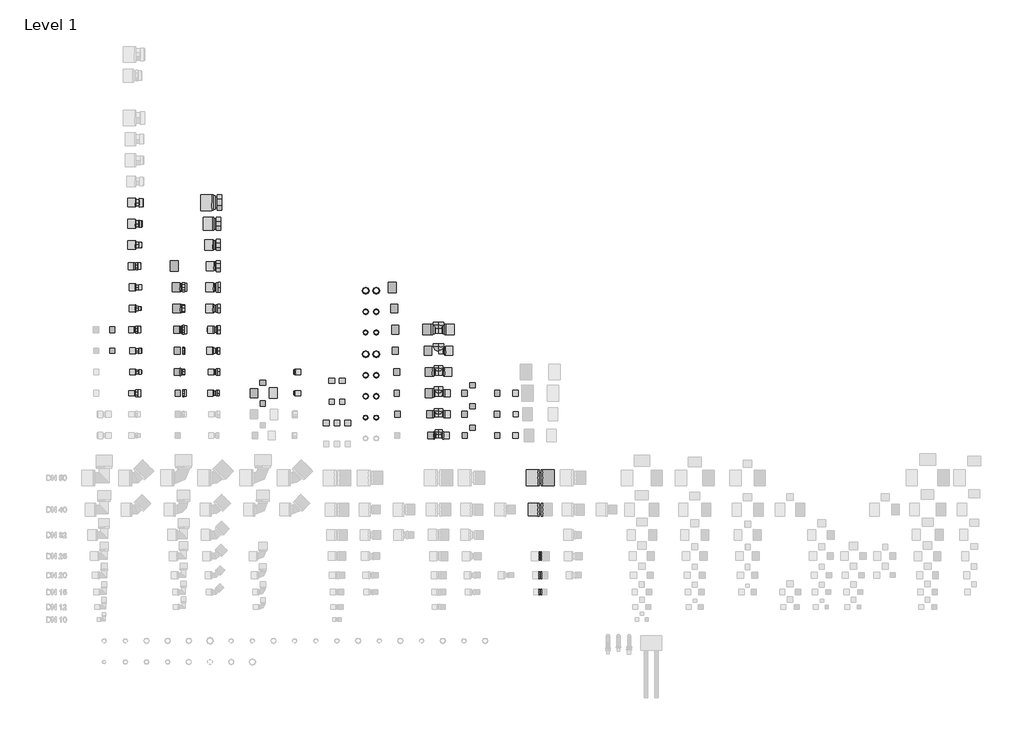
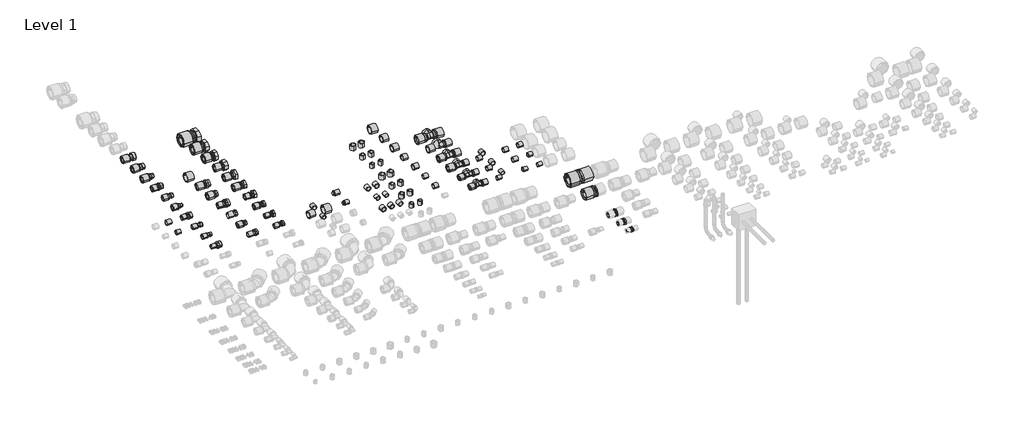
# One storey, part 3 of 6: 129 pipe fittings.
"""IFC4 building model written with IfcOpenShell, lengths in millimetres."""

from ifc_helpers import new_model, si_unit, origin, place, context, project, spatial, transform, mapped, element, save
from components import pipe_fitting_dc5bd9e1, pipe_fitting_2d968c61, pipe_fitting_88740129, pipe_fitting_559d0b61, pipe_fitting_0c431896, pipe_fitting_02b715f6, pipe_fitting_7a5bf8d1, pipe_fitting_13d5c0a8, pipe_fitting_8540cbe0, pipe_fitting_d5a7e158, pipe_fitting_53153cce, pipe_fitting_3f19c21a, pipe_fitting_12e4655d, pipe_fitting_7b1f8a8a, pipe_fitting_287578f1, pipe_fitting_785edea0, pipe_fitting_6b43a2d7, pipe_fitting_e8103e93, pipe_fitting_925a95b2, pipe_fitting_cb618aad, pipe_fitting_878e7421, pipe_fitting_f3fac54c, pipe_fitting_2987e508, pipe_fitting_4d9bfbce, pipe_fitting_af6f0c80, pipe_fitting_d0a43c41, pipe_fitting_14bc0ab8, pipe_fitting_6d607381, pipe_fitting_c2736b13, pipe_fitting_865653ef, pipe_fitting_e0fdfad7, pipe_fitting_e5cdf9b6, pipe_fitting_7c62dc51, pipe_fitting_33c6310a, pipe_fitting_bc3ce7b6, pipe_fitting_96b89afd, pipe_fitting_d2a3cc81, pipe_fitting_7746bbda, pipe_fitting_c34647a8, pipe_fitting_44745cd8, pipe_fitting_1432e17d, pipe_fitting_54674e64, pipe_fitting_b68d655f, pipe_fitting_80a5c932, pipe_fitting_2d11deeb, pipe_fitting_3f0aedb5, pipe_fitting_70f18579, pipe_fitting_447a7474

model = new_model("IFC4")

# Units and contexts
model_context = context("Model", 3, world=origin())
ifc_project = project(units=[si_unit("LENGTHUNIT", "METRE", prefix="MILLI")], contexts=[model_context])

# Site, building, storey
site = spatial("IfcSite", under=ifc_project)
building = spatial("IfcBuilding", under=site)
storey = spatial("IfcBuildingStorey", under=building, Name="Level 1", Elevation=0.0)

# Pipe fittings
placement = place(None, origin())
pipe_fitting_shape = pipe_fitting_dc5bd9e1(model_context)
element("IfcPipeFitting", 1, ObjectType="RAUTITAN_Union_RX+ : RTI RX+ U DE", at=placement, inside=storey, context=model_context, shape_type="MappedRepresentation", body=[
    mapped(pipe_fitting_shape, transform((2060.0, 300.0, 0.0), x_axis=(1.0, 0.0, 0.0), y_axis=(0.0, 1.0, 0.0), z_axis=(0.0, 0.0, 1.0))),
])
pipe_fitting_2_shape = pipe_fitting_2d968c61(model_context)
element("IfcPipeFitting", 2, ObjectType="RAUTITAN_Union_RX+ : RTI RX+ U DE", at=placement, inside=storey, context=model_context, shape_type="MappedRepresentation", body=[
    mapped(pipe_fitting_2_shape, transform((2060.0, 130.0, 0.0), x_axis=(1.0, 0.0, 0.0), y_axis=(0.0, 1.0, 0.0), z_axis=(0.0, 0.0, 1.0))),
])
pipe_fitting_3_shape = pipe_fitting_88740129(model_context)
element("IfcPipeFitting", 3, ObjectType="RAUTITAN_Union_RX+ : RTI RX+ U DE", at=placement, inside=storey, context=model_context, shape_type="MappedRepresentation", body=[
    mapped(pipe_fitting_3_shape, transform((2060.0, 210.0, 0.0), x_axis=(1.0, 0.0, 0.0), y_axis=(0.0, 1.0, 0.0), z_axis=(0.0, 0.0, 1.0))),
])
pipe_fitting_4_shape = pipe_fitting_559d0b61(model_context)
element("IfcPipeFitting", 4, ObjectType="RAUTITAN_Union_RX+ : RTI RX+ U DE", at=placement, inside=storey, context=model_context, shape_type="MappedRepresentation", body=[
    mapped(pipe_fitting_4_shape, transform((2060.0, 520.0, 0.0), x_axis=(1.0, 0.0, 0.0), y_axis=(0.0, 1.0, 0.0), z_axis=(0.0, 0.0, 1.0))),
])
pipe_fitting_5_shape = pipe_fitting_0c431896(model_context)
element("IfcPipeFitting", 5, ObjectType="RAUTITAN_Union_RX+ : RTI RX+ U DE", at=placement, inside=storey, context=model_context, shape_type="MappedRepresentation", body=[
    mapped(pipe_fitting_5_shape, transform((2060.0, 670.0, 0.0), x_axis=(1.0, 0.0, 0.0), y_axis=(0.0, 1.0, 0.0), z_axis=(0.0, 0.0, 1.0))),
])
pipe_fitting_6_shape = pipe_fitting_02b715f6(model_context)
element("IfcPipeFitting", 6, ObjectType="RAUTITAN_Sleeve PX : RTI S PX", at=placement, inside=storey, context=model_context, shape_type="MappedRepresentation", body=[
    mapped(pipe_fitting_6_shape, transform((2049.0, 520.0, 0.0), x_axis=(-1.0, 0.0, 0.0), y_axis=(0.0, -1.0, 0.0), z_axis=(0.0, 0.0, 1.0))),
])
pipe_fitting_7_shape = pipe_fitting_7a5bf8d1(model_context)
element("IfcPipeFitting", 7, ObjectType="RAUTITAN_Sleeve PX : RTI S PX", at=placement, inside=storey, context=model_context, shape_type="MappedRepresentation", body=[
    mapped(pipe_fitting_7_shape, transform((2047.5, 670.0, 0.0), x_axis=(-1.0, 0.0, 0.0), y_axis=(0.0, -1.0, 0.0), z_axis=(0.0, 0.0, 1.0))),
])
element("IfcPipeFitting", 8, ObjectType="RAUTITAN_Sleeve PX : RTI S PX", at=placement, inside=storey, context=model_context, shape_type="MappedRepresentation", body=[
    mapped(pipe_fitting_7_shape, transform((2072.5, 670.0, 0.0), x_axis=(1.0, 0.0, 0.0), y_axis=(0.0, 1.0, 0.0), z_axis=(0.0, 0.0, 1.0))),
])
pipe_fitting_8_shape = pipe_fitting_13d5c0a8(model_context)
element("IfcPipeFitting", 9, ObjectType="REHAU_RAUTITAN_Sleeve_PX : REHAU_RAUTITAN_Sleeve_PX", at=placement, inside=storey, context=model_context, shape_type="MappedRepresentation", body=[
    mapped(pipe_fitting_8_shape, transform((117.03, 1070.0, 0.0), x_axis=(1.0, 0.0, 0.0), y_axis=(0.0, 1.0, 0.0), z_axis=(0.0, 0.0, 1.0))),
])
element("IfcPipeFitting", 10, ObjectType="REHAU_RAUTITAN_Sleeve_PX : REHAU_RAUTITAN_Sleeve_PX", at=placement, inside=storey, context=model_context, shape_type="MappedRepresentation", body=[
    mapped(pipe_fitting_8_shape, transform((1075.0, 1042.0, 0.0), x_axis=(0.0, -1.0, 0.0), y_axis=(1.0, 0.0, 0.0), z_axis=(0.0, 0.0, 1.0))),
])
element("IfcPipeFitting", 11, ObjectType="REHAU_RAUTITAN_Sleeve_PX : REHAU_RAUTITAN_Sleeve_PX", at=placement, inside=storey, context=model_context, shape_type="MappedRepresentation", body=[
    mapped(pipe_fitting_8_shape, transform((1125.0, 1042.0, 0.0), x_axis=(0.0, -1.0, 0.0), y_axis=(1.0, 0.0, 0.0), z_axis=(0.0, 0.0, 1.0))),
])
element("IfcPipeFitting", 12, ObjectType="REHAU_RAUTITAN_Sleeve_PX : REHAU_RAUTITAN_Sleeve_PX", at=placement, inside=storey, context=model_context, shape_type="MappedRepresentation", body=[
    mapped(pipe_fitting_8_shape, transform((903.8, 1070.0, 0.0), x_axis=(1.0, 0.0, 0.0), y_axis=(0.0, 1.0, 0.0), z_axis=(0.0, 0.0, 1.0))),
])
element("IfcPipeFitting", 13, ObjectType="REHAU_RAUTITAN_Sleeve_PX : REHAU_RAUTITAN_Sleeve_PX", at=placement, inside=storey, context=model_context, shape_type="MappedRepresentation", body=[
    mapped(pipe_fitting_8_shape, transform((49.3, 1270.0, 0.0), x_axis=(-1.0, 0.0, 0.0), y_axis=(0.0, -1.0, 0.0), z_axis=(0.0, 0.0, 1.0))),
])
element("IfcPipeFitting", 14, ObjectType="REHAU_RAUTITAN_Sleeve_PX : REHAU_RAUTITAN_Sleeve_PX", at=placement, inside=storey, context=model_context, shape_type="MappedRepresentation", body=[
    mapped(pipe_fitting_8_shape, transform((1931.15, 870.0, 0.0), x_axis=(1.0, 0.0, 0.0), y_axis=(0.0, 1.0, 0.0), z_axis=(0.0, 0.0, 1.0))),
])
element("IfcPipeFitting", 15, ObjectType="REHAU_RAUTITAN_Sleeve_PX : REHAU_RAUTITAN_Sleeve_PX", at=placement, inside=storey, context=model_context, shape_type="MappedRepresentation", body=[
    mapped(pipe_fitting_8_shape, transform((1868.85, 870.0, 0.0), x_axis=(-1.0, 0.0, 0.0), y_axis=(0.0, -1.0, 0.0), z_axis=(0.0, 0.0, 1.0))),
])
element("IfcPipeFitting", 16, ObjectType="REHAU_RAUTITAN_Sleeve_PX : REHAU_RAUTITAN_Sleeve_PX", at=placement, inside=storey, context=model_context, shape_type="MappedRepresentation", body=[
    mapped(pipe_fitting_8_shape, transform((750.0, 1009.3, 0.0), x_axis=(0.0, 1.0, 0.0), y_axis=(-1.0, 0.0, 0.0), z_axis=(0.0, 0.0, 1.0))),
])
element("IfcPipeFitting", 17, ObjectType="REHAU_RAUTITAN_Sleeve_PX : REHAU_RAUTITAN_Sleeve_PX", at=placement, inside=storey, context=model_context, shape_type="MappedRepresentation", body=[
    mapped(pipe_fitting_8_shape, transform((1234.995, 1356.73, -43.5), x_axis=(0.0, 0.0, -1.0), y_axis=(0.0, 1.0, 0.0), z_axis=(1.0, 0.0, 0.0))),
])
element("IfcPipeFitting", 18, ObjectType="REHAU_RAUTITAN_Sleeve_PX : REHAU_RAUTITAN_Sleeve_PX", at=placement, inside=storey, context=model_context, shape_type="MappedRepresentation", body=[
    mapped(pipe_fitting_8_shape, transform((1285.12, 1356.73, -43.5), x_axis=(0.0, 0.0, -1.0), y_axis=(0.0, 1.0, 0.0), z_axis=(1.0, 0.0, 0.0))),
])
element("IfcPipeFitting", 19, ObjectType="REHAU_RAUTITAN_Sleeve_PX : REHAU_RAUTITAN_Sleeve_PX", at=placement, inside=storey, context=model_context, shape_type="MappedRepresentation", body=[
    mapped(pipe_fitting_8_shape, transform((1234.995, 954.75, -46.31), x_axis=(0.0, 0.0, -1.0), y_axis=(0.0, 1.0, 0.0), z_axis=(1.0, 0.0, 0.0))),
])
element("IfcPipeFitting", 20, ObjectType="REHAU_RAUTITAN_Sleeve_PX : REHAU_RAUTITAN_Sleeve_PX", at=placement, inside=storey, context=model_context, shape_type="MappedRepresentation", body=[
    mapped(pipe_fitting_8_shape, transform((1285.12, 954.75, -46.81), x_axis=(0.0, 0.0, -1.0), y_axis=(0.0, 1.0, 0.0), z_axis=(1.0, 0.0, 0.0))),
])
element("IfcPipeFitting", 21, ObjectType="REHAU_RAUTITAN_Sleeve_PX : REHAU_RAUTITAN_Sleeve_PX", at=placement, inside=storey, context=model_context, shape_type="MappedRepresentation", body=[
    mapped(pipe_fitting_8_shape, transform((1715.22, 870.0, 0.0), x_axis=(-1.0, 0.0, 0.0), y_axis=(0.0, -1.0, 0.0), z_axis=(0.0, 0.0, 1.0))),
])
element("IfcPipeFitting", 22, ObjectType="REHAU_RAUTITAN_Sleeve_PX : REHAU_RAUTITAN_Sleeve_PX", at=placement, inside=storey, context=model_context, shape_type="MappedRepresentation", body=[
    mapped(pipe_fitting_8_shape, transform((1740.0, 894.5, 0.0), x_axis=(0.0, 1.0, 0.0), y_axis=(-1.0, 0.0, 0.0), z_axis=(0.0, 0.0, 1.0))),
])
element("IfcPipeFitting", 23, ObjectType="REHAU_RAUTITAN_Sleeve_PX : REHAU_RAUTITAN_Sleeve_PX", at=placement, inside=storey, context=model_context, shape_type="MappedRepresentation", body=[
    mapped(pipe_fitting_8_shape, transform((1931.81, 970.0, 0.0), x_axis=(1.0, 0.0, 0.0), y_axis=(0.0, 1.0, 0.0), z_axis=(0.0, 0.0, 1.0))),
])
pipe_fitting_9_shape = pipe_fitting_8540cbe0(model_context)
element("IfcPipeFitting", 24, ObjectType="REHAU_RAUTITAN_Adaptor_RX+, with external thread : REHAU_RAUTITAN_Adaptor_RX+, with external thread", at=placement, inside=storey, context=model_context, shape_type="MappedRepresentation", body=[
    mapped(pipe_fitting_9_shape, transform((150.0, 1170.0, 0.0), x_axis=(1.0, 0.0, 0.0), y_axis=(0.0, 1.0, 0.0), z_axis=(0.0, 0.0, 1.0))),
])
pipe_fitting_10_shape = pipe_fitting_d5a7e158(model_context)
element("IfcPipeFitting", 25, ObjectType="REHAU_RAUTITAN_Adaptor_RX+, with external thread : REHAU_RAUTITAN_Adaptor_RX+, with external thread", at=placement, inside=storey, context=model_context, shape_type="MappedRepresentation", body=[
    mapped(pipe_fitting_10_shape, transform((150.0, 1270.0, 0.0), x_axis=(1.0, 0.0, 0.0), y_axis=(0.0, 1.0, 0.0), z_axis=(0.0, 0.0, 1.0))),
])
pipe_fitting_11_shape = pipe_fitting_53153cce(model_context)
element("IfcPipeFitting", 26, ObjectType="REHAU_RAUTITAN_Adaptor_RX+, with external thread : REHAU_RAUTITAN_Adaptor_RX+, with external thread", at=placement, inside=storey, context=model_context, shape_type="MappedRepresentation", body=[
    mapped(pipe_fitting_11_shape, transform((150.0, 1570.0, 0.0), x_axis=(1.0, 0.0, 0.0), y_axis=(0.0, 1.0, 0.0), z_axis=(0.0, 0.0, 1.0))),
])
pipe_fitting_12_shape = pipe_fitting_3f19c21a(model_context)
element("IfcPipeFitting", 27, ObjectType="REHAU_RAUTITAN_Adaptor_RX+, with external thread : REHAU_RAUTITAN_Adaptor_RX+, with external thread", at=placement, inside=storey, context=model_context, shape_type="MappedRepresentation", body=[
    mapped(pipe_fitting_12_shape, transform((150.0, 1070.0, 0.0), x_axis=(1.0, 0.0, 0.0), y_axis=(0.0, 1.0, 0.0), z_axis=(0.0, 0.0, 1.0))),
])
pipe_fitting_13_shape = pipe_fitting_12e4655d(model_context)
element("IfcPipeFitting", 28, ObjectType="REHAU_RAUTITAN_Adaptor_RX+, with external thread : REHAU_RAUTITAN_Adaptor_RX+, with external thread", at=placement, inside=storey, context=model_context, shape_type="MappedRepresentation", body=[
    mapped(pipe_fitting_13_shape, transform((150.0, 1370.0, 0.0), x_axis=(1.0, 0.0, 0.0), y_axis=(0.0, 1.0, 0.0), z_axis=(0.0, 0.0, 1.0))),
])
pipe_fitting_14_shape = pipe_fitting_7b1f8a8a(model_context)
element("IfcPipeFitting", 29, ObjectType="REHAU_RAUTITAN_Dummy_Plug_RX+ : REHAU_RAUTITAN_Dummy_Plug_RX+", at=placement, inside=storey, context=model_context, shape_type="MappedRepresentation", body=[
    mapped(pipe_fitting_14_shape, transform((900.0, 1170.0, 0.0), x_axis=(1.0, 0.0, 0.0), y_axis=(0.0, 1.0, 0.0), z_axis=(0.0, 0.0, 1.0))),
])
pipe_fitting_15_shape = pipe_fitting_287578f1(model_context)
element("IfcPipeFitting", 30, ObjectType="REHAU_RAUTITAN_T-piece RX+, outlet with internal thread : REHAU_RAUTITAN_T-piece RX+, outlet with internal thread", at=placement, inside=storey, context=model_context, shape_type="MappedRepresentation", body=[
    mapped(pipe_fitting_15_shape, transform((1580.0, 870.0, 0.0), x_axis=(1.0, 0.0, 0.0), y_axis=(0.0, 1.0, 0.0), z_axis=(0.0, 0.0, 1.0))),
])
pipe_fitting_16_shape = pipe_fitting_785edea0(model_context)
element("IfcPipeFitting", 31, ObjectType="REHAU_RAUTITAN_Sleeve_PX : REHAU_RAUTITAN_Sleeve_PX", at=placement, inside=storey, context=model_context, shape_type="MappedRepresentation", body=[
    mapped(pipe_fitting_16_shape, transform((121.67, 1170.0, 0.0), x_axis=(1.0, 0.0, 0.0), y_axis=(0.0, 1.0, 0.0), z_axis=(0.0, 0.0, 1.0))),
])
element("IfcPipeFitting", 32, ObjectType="REHAU_RAUTITAN_Sleeve_PX : REHAU_RAUTITAN_Sleeve_PX", at=placement, inside=storey, context=model_context, shape_type="MappedRepresentation", body=[
    mapped(pipe_fitting_16_shape, transform((121.65, 1270.0, 0.0), x_axis=(1.0, 0.0, 0.0), y_axis=(0.0, 1.0, 0.0), z_axis=(0.0, 0.0, 1.0))),
])
element("IfcPipeFitting", 33, ObjectType="REHAU_RAUTITAN_Sleeve_PX : REHAU_RAUTITAN_Sleeve_PX", at=placement, inside=storey, context=model_context, shape_type="MappedRepresentation", body=[
    mapped(pipe_fitting_16_shape, transform((115.56, 1370.0, 0.0), x_axis=(1.0, 0.0, 0.0), y_axis=(0.0, 1.0, 0.0), z_axis=(0.0, 0.0, 1.0))),
])
element("IfcPipeFitting", 34, ObjectType="REHAU_RAUTITAN_Sleeve_PX : REHAU_RAUTITAN_Sleeve_PX", at=placement, inside=storey, context=model_context, shape_type="MappedRepresentation", body=[
    mapped(pipe_fitting_16_shape, transform((1714.85, 1070.0, 0.0), x_axis=(-1.0, 0.0, 0.0), y_axis=(0.0, -1.0, 0.0), z_axis=(0.0, 0.0, 1.0))),
])
element("IfcPipeFitting", 35, ObjectType="REHAU_RAUTITAN_Sleeve_PX : REHAU_RAUTITAN_Sleeve_PX", at=placement, inside=storey, context=model_context, shape_type="MappedRepresentation", body=[
    mapped(pipe_fitting_16_shape, transform((1740.0, 1095.3, 0.0), x_axis=(0.0, 1.0, 0.0), y_axis=(-1.0, 0.0, 0.0), z_axis=(0.0, 0.0, 1.0))),
])
element("IfcPipeFitting", 36, ObjectType="REHAU_RAUTITAN_Sleeve_PX : REHAU_RAUTITAN_Sleeve_PX", at=placement, inside=storey, context=model_context, shape_type="MappedRepresentation", body=[
    mapped(pipe_fitting_16_shape, transform((50.8, 1370.0, 0.0), x_axis=(-1.0, 0.0, 0.0), y_axis=(0.0, -1.0, 0.0), z_axis=(0.0, 0.0, 1.0))),
])
element("IfcPipeFitting", 37, ObjectType="REHAU_RAUTITAN_Sleeve_PX : REHAU_RAUTITAN_Sleeve_PX", at=placement, inside=storey, context=model_context, shape_type="MappedRepresentation", body=[
    mapped(pipe_fitting_16_shape, transform((359.81, 1070.0, 0.0), x_axis=(-1.0, 0.0, 0.0), y_axis=(0.0, -1.0, 0.0), z_axis=(0.0, 0.0, 1.0))),
])
element("IfcPipeFitting", 38, ObjectType="REHAU_RAUTITAN_Sleeve_PX : REHAU_RAUTITAN_Sleeve_PX", at=placement, inside=storey, context=model_context, shape_type="MappedRepresentation", body=[
    mapped(pipe_fitting_16_shape, transform((488.91, 1070.0, 0.0), x_axis=(1.0, 0.0, 0.0), y_axis=(0.0, 1.0, 0.0), z_axis=(0.0, 0.0, 1.0))),
])
element("IfcPipeFitting", 39, ObjectType="REHAU_RAUTITAN_Sleeve_PX : REHAU_RAUTITAN_Sleeve_PX", at=placement, inside=storey, context=model_context, shape_type="MappedRepresentation", body=[
    mapped(pipe_fitting_16_shape, transform((492.1, 1170.0, 0.0), x_axis=(1.0, 0.0, 0.0), y_axis=(0.0, 1.0, 0.0), z_axis=(0.0, 0.0, 1.0))),
])
element("IfcPipeFitting", 40, ObjectType="REHAU_RAUTITAN_Sleeve_PX : REHAU_RAUTITAN_Sleeve_PX", at=placement, inside=storey, context=model_context, shape_type="MappedRepresentation", body=[
    mapped(pipe_fitting_16_shape, transform((750.0, 1106.8, 0.0), x_axis=(0.0, 1.0, 0.0), y_axis=(-1.0, 0.0, 0.0), z_axis=(0.0, 0.0, 1.0))),
])
element("IfcPipeFitting", 41, ObjectType="REHAU_RAUTITAN_Sleeve_PX : REHAU_RAUTITAN_Sleeve_PX", at=placement, inside=storey, context=model_context, shape_type="MappedRepresentation", body=[
    mapped(pipe_fitting_16_shape, transform((1050.0, 942.0, 0.0), x_axis=(0.0, -1.0, 0.0), y_axis=(1.0, 0.0, 0.0), z_axis=(0.0, 0.0, 1.0))),
])
element("IfcPipeFitting", 42, ObjectType="REHAU_RAUTITAN_Sleeve_PX : REHAU_RAUTITAN_Sleeve_PX", at=placement, inside=storey, context=model_context, shape_type="MappedRepresentation", body=[
    mapped(pipe_fitting_16_shape, transform((1100.0, 942.0, 0.0), x_axis=(0.0, -1.0, 0.0), y_axis=(1.0, 0.0, 0.0), z_axis=(0.0, 0.0, 1.0))),
])
element("IfcPipeFitting", 43, ObjectType="REHAU_RAUTITAN_Sleeve_PX : REHAU_RAUTITAN_Sleeve_PX", at=placement, inside=storey, context=model_context, shape_type="MappedRepresentation", body=[
    mapped(pipe_fitting_16_shape, transform((1150.0, 942.0, 0.0), x_axis=(0.0, -1.0, 0.0), y_axis=(1.0, 0.0, 0.0), z_axis=(0.0, 0.0, 1.0))),
])
element("IfcPipeFitting", 44, ObjectType="REHAU_RAUTITAN_Sleeve_PX : REHAU_RAUTITAN_Sleeve_PX", at=placement, inside=storey, context=model_context, shape_type="MappedRepresentation", body=[
    mapped(pipe_fitting_16_shape, transform((1075.0, 1140.9, 0.0), x_axis=(0.0, -1.0, 0.0), y_axis=(1.0, 0.0, 0.0), z_axis=(0.0, 0.0, 1.0))),
])
element("IfcPipeFitting", 45, ObjectType="REHAU_RAUTITAN_Sleeve_PX : REHAU_RAUTITAN_Sleeve_PX", at=placement, inside=storey, context=model_context, shape_type="MappedRepresentation", body=[
    mapped(pipe_fitting_16_shape, transform((1125.0, 1140.9, 0.0), x_axis=(0.0, -1.0, 0.0), y_axis=(1.0, 0.0, 0.0), z_axis=(0.0, 0.0, 1.0))),
])
element("IfcPipeFitting", 46, ObjectType="REHAU_RAUTITAN_Sleeve_PX : REHAU_RAUTITAN_Sleeve_PX", at=placement, inside=storey, context=model_context, shape_type="MappedRepresentation", body=[
    mapped(pipe_fitting_16_shape, transform((1234.995, 1154.75, -46.81), x_axis=(0.0, 0.0, -1.0), y_axis=(0.0, 1.0, 0.0), z_axis=(1.0, 0.0, 0.0))),
])
element("IfcPipeFitting", 47, ObjectType="REHAU_RAUTITAN_Sleeve_PX : REHAU_RAUTITAN_Sleeve_PX", at=placement, inside=storey, context=model_context, shape_type="MappedRepresentation", body=[
    mapped(pipe_fitting_16_shape, transform((1285.12, 1154.75, -46.81), x_axis=(0.0, 0.0, -1.0), y_axis=(0.0, 1.0, 0.0), z_axis=(1.0, 0.0, 0.0))),
])
element("IfcPipeFitting", 48, ObjectType="REHAU_RAUTITAN_Sleeve_PX : REHAU_RAUTITAN_Sleeve_PX", at=placement, inside=storey, context=model_context, shape_type="MappedRepresentation", body=[
    mapped(pipe_fitting_16_shape, transform((1234.995, 1454.75, -46.81), x_axis=(0.0, 0.0, -1.0), y_axis=(0.0, 1.0, 0.0), z_axis=(1.0, 0.0, 0.0))),
])
element("IfcPipeFitting", 49, ObjectType="REHAU_RAUTITAN_Sleeve_PX : REHAU_RAUTITAN_Sleeve_PX", at=placement, inside=storey, context=model_context, shape_type="MappedRepresentation", body=[
    mapped(pipe_fitting_16_shape, transform((1285.12, 1454.75, -46.81), x_axis=(0.0, 0.0, -1.0), y_axis=(0.0, 1.0, 0.0), z_axis=(1.0, 0.0, 0.0))),
])
element("IfcPipeFitting", 50, ObjectType="REHAU_RAUTITAN_Sleeve_PX : REHAU_RAUTITAN_Sleeve_PX", at=placement, inside=storey, context=model_context, shape_type="MappedRepresentation", body=[
    mapped(pipe_fitting_16_shape, transform((1234.995, 1054.75, -46.81), x_axis=(0.0, 0.0, -1.0), y_axis=(0.0, 1.0, 0.0), z_axis=(1.0, 0.0, 0.0))),
])
element("IfcPipeFitting", 51, ObjectType="REHAU_RAUTITAN_Sleeve_PX : REHAU_RAUTITAN_Sleeve_PX", at=placement, inside=storey, context=model_context, shape_type="MappedRepresentation", body=[
    mapped(pipe_fitting_16_shape, transform((1285.12, 1054.75, -46.31), x_axis=(0.0, 0.0, -1.0), y_axis=(0.0, 1.0, 0.0), z_axis=(1.0, 0.0, 0.0))),
])
element("IfcPipeFitting", 52, ObjectType="REHAU_RAUTITAN_Sleeve_PX : REHAU_RAUTITAN_Sleeve_PX", at=placement, inside=storey, context=model_context, shape_type="MappedRepresentation", body=[
    mapped(pipe_fitting_16_shape, transform((904.3, 1170.0, 0.0), x_axis=(1.0, 0.0, 0.0), y_axis=(0.0, 1.0, 0.0), z_axis=(0.0, 0.0, 1.0))),
])
element("IfcPipeFitting", 53, ObjectType="REHAU_RAUTITAN_Sleeve_PX : REHAU_RAUTITAN_Sleeve_PX", at=placement, inside=storey, context=model_context, shape_type="MappedRepresentation", body=[
    mapped(pipe_fitting_16_shape, transform((1397.5, 970.0, 0.0), x_axis=(-1.0, 0.0, 0.0), y_axis=(0.0, -1.0, 0.0), z_axis=(0.0, 0.0, 1.0))),
])
element("IfcPipeFitting", 54, ObjectType="REHAU_RAUTITAN_Sleeve_PX : REHAU_RAUTITAN_Sleeve_PX", at=placement, inside=storey, context=model_context, shape_type="MappedRepresentation", body=[
    mapped(pipe_fitting_16_shape, transform((1395.1, 1070.0, 0.0), x_axis=(-1.0, 0.0, 0.0), y_axis=(0.0, -1.0, 0.0), z_axis=(0.0, 0.0, 1.0))),
])
element("IfcPipeFitting", 55, ObjectType="REHAU_RAUTITAN_Sleeve_PX : REHAU_RAUTITAN_Sleeve_PX", at=placement, inside=storey, context=model_context, shape_type="MappedRepresentation", body=[
    mapped(pipe_fitting_16_shape, transform((1714.7, 970.0, 0.0), x_axis=(-1.0, 0.0, 0.0), y_axis=(0.0, -1.0, 0.0), z_axis=(0.0, 0.0, 1.0))),
])
element("IfcPipeFitting", 56, ObjectType="REHAU_RAUTITAN_Sleeve_PX : REHAU_RAUTITAN_Sleeve_PX", at=placement, inside=storey, context=model_context, shape_type="MappedRepresentation", body=[
    mapped(pipe_fitting_16_shape, transform((1740.0, 995.3, 0.0), x_axis=(0.0, 1.0, 0.0), y_axis=(-1.0, 0.0, 0.0), z_axis=(0.0, 0.0, 1.0))),
])
element("IfcPipeFitting", 57, ObjectType="REHAU_RAUTITAN_Sleeve_PX : REHAU_RAUTITAN_Sleeve_PX", at=placement, inside=storey, context=model_context, shape_type="MappedRepresentation", body=[
    mapped(pipe_fitting_16_shape, transform((1868.68, 970.0, 0.0), x_axis=(-1.0, 0.0, 0.0), y_axis=(0.0, -1.0, 0.0), z_axis=(0.0, 0.0, 1.0))),
])
element("IfcPipeFitting", 58, ObjectType="REHAU_RAUTITAN_Sleeve_PX : REHAU_RAUTITAN_Sleeve_PX", at=placement, inside=storey, context=model_context, shape_type="MappedRepresentation", body=[
    mapped(pipe_fitting_16_shape, transform((1930.15, 1070.0, 0.0), x_axis=(1.0, 0.0, 0.0), y_axis=(0.0, 1.0, 0.0), z_axis=(0.0, 0.0, 1.0))),
])
element("IfcPipeFitting", 59, ObjectType="REHAU_RAUTITAN_Sleeve_PX : REHAU_RAUTITAN_Sleeve_PX", at=placement, inside=storey, context=model_context, shape_type="MappedRepresentation", body=[
    mapped(pipe_fitting_16_shape, transform((1869.85, 1070.0, 0.0), x_axis=(-1.0, 0.0, 0.0), y_axis=(0.0, -1.0, 0.0), z_axis=(0.0, 0.0, 1.0))),
])
pipe_fitting_17_shape = pipe_fitting_6b43a2d7(model_context)
element("IfcPipeFitting", 60, ObjectType="REHAU_RAUTITAN_Sleeve_PX : REHAU_RAUTITAN_Sleeve_PX", at=placement, inside=storey, context=model_context, shape_type="MappedRepresentation", body=[
    mapped(pipe_fitting_17_shape, transform((119.46, 1470.0, 0.0), x_axis=(1.0, 0.0, 0.0), y_axis=(0.0, 1.0, 0.0), z_axis=(0.0, 0.0, 1.0))),
])
element("IfcPipeFitting", 61, ObjectType="REHAU_RAUTITAN_Sleeve_PX : REHAU_RAUTITAN_Sleeve_PX", at=placement, inside=storey, context=model_context, shape_type="MappedRepresentation", body=[
    mapped(pipe_fitting_17_shape, transform((119.46, 1570.0, 0.0), x_axis=(1.0, 0.0, 0.0), y_axis=(0.0, 1.0, 0.0), z_axis=(0.0, 0.0, 1.0))),
])
element("IfcPipeFitting", 62, ObjectType="REHAU_RAUTITAN_Sleeve_PX : REHAU_RAUTITAN_Sleeve_PX", at=placement, inside=storey, context=model_context, shape_type="MappedRepresentation", body=[
    mapped(pipe_fitting_17_shape, transform((113.28, 1670.0, 0.0), x_axis=(1.0, 0.0, 0.0), y_axis=(0.0, 1.0, 0.0), z_axis=(0.0, 0.0, 1.0))),
])
element("IfcPipeFitting", 63, ObjectType="REHAU_RAUTITAN_Sleeve_PX : REHAU_RAUTITAN_Sleeve_PX", at=placement, inside=storey, context=model_context, shape_type="MappedRepresentation", body=[
    mapped(pipe_fitting_17_shape, transform((1604.0, 870.0, 0.0), x_axis=(1.0, 0.0, 0.0), y_axis=(0.0, 1.0, 0.0), z_axis=(0.0, 0.0, 1.0))),
])
element("IfcPipeFitting", 64, ObjectType="REHAU_RAUTITAN_Sleeve_PX : REHAU_RAUTITAN_Sleeve_PX", at=placement, inside=storey, context=model_context, shape_type="MappedRepresentation", body=[
    mapped(pipe_fitting_17_shape, transform((1556.0, 870.0, 0.0), x_axis=(-1.0, 0.0, 0.0), y_axis=(0.0, -1.0, 0.0), z_axis=(0.0, 0.0, 1.0))),
])
element("IfcPipeFitting", 65, ObjectType="REHAU_RAUTITAN_Sleeve_PX : REHAU_RAUTITAN_Sleeve_PX", at=placement, inside=storey, context=model_context, shape_type="MappedRepresentation", body=[
    mapped(pipe_fitting_17_shape, transform((357.43, 1170.0, 0.0), x_axis=(-1.0, 0.0, 0.0), y_axis=(0.0, -1.0, 0.0), z_axis=(0.0, 0.0, 1.0))),
])
element("IfcPipeFitting", 66, ObjectType="REHAU_RAUTITAN_Sleeve_PX : REHAU_RAUTITAN_Sleeve_PX", at=placement, inside=storey, context=model_context, shape_type="MappedRepresentation", body=[
    mapped(pipe_fitting_17_shape, transform((358.42, 1270.0, 0.0), x_axis=(-1.0, 0.0, 0.0), y_axis=(0.0, -1.0, 0.0), z_axis=(0.0, 0.0, 1.0))),
])
element("IfcPipeFitting", 67, ObjectType="REHAU_RAUTITAN_Sleeve_PX : REHAU_RAUTITAN_Sleeve_PX", at=placement, inside=storey, context=model_context, shape_type="MappedRepresentation", body=[
    mapped(pipe_fitting_17_shape, transform((485.65, 1270.0, 0.0), x_axis=(1.0, 0.0, 0.0), y_axis=(0.0, 1.0, 0.0), z_axis=(0.0, 0.0, 1.0))),
])
element("IfcPipeFitting", 68, ObjectType="REHAU_RAUTITAN_Sleeve_PX : REHAU_RAUTITAN_Sleeve_PX", at=placement, inside=storey, context=model_context, shape_type="MappedRepresentation", body=[
    mapped(pipe_fitting_17_shape, transform((488.35, 1370.0, 0.0), x_axis=(1.0, 0.0, 0.0), y_axis=(0.0, 1.0, 0.0), z_axis=(0.0, 0.0, 1.0))),
])
element("IfcPipeFitting", 69, ObjectType="REHAU_RAUTITAN_Sleeve_PX : REHAU_RAUTITAN_Sleeve_PX", at=placement, inside=storey, context=model_context, shape_type="MappedRepresentation", body=[
    mapped(pipe_fitting_17_shape, transform((355.84, 1370.0, 0.0), x_axis=(-1.0, 0.0, 0.0), y_axis=(0.0, -1.0, 0.0), z_axis=(0.0, 0.0, 1.0))),
])
element("IfcPipeFitting", 70, ObjectType="REHAU_RAUTITAN_Sleeve_PX : REHAU_RAUTITAN_Sleeve_PX", at=placement, inside=storey, context=model_context, shape_type="MappedRepresentation", body=[
    mapped(pipe_fitting_17_shape, transform((1234.995, 1254.75, -46.39), x_axis=(0.0, 0.0, -1.0), y_axis=(0.0, 1.0, 0.0), z_axis=(1.0, 0.0, 0.0))),
])
element("IfcPipeFitting", 71, ObjectType="REHAU_RAUTITAN_Sleeve_PX : REHAU_RAUTITAN_Sleeve_PX", at=placement, inside=storey, context=model_context, shape_type="MappedRepresentation", body=[
    mapped(pipe_fitting_17_shape, transform((1285.12, 1254.75, -46.39), x_axis=(0.0, 0.0, -1.0), y_axis=(0.0, 1.0, 0.0), z_axis=(1.0, 0.0, 0.0))),
])
element("IfcPipeFitting", 72, ObjectType="REHAU_RAUTITAN_Sleeve_PX : REHAU_RAUTITAN_Sleeve_PX", at=placement, inside=storey, context=model_context, shape_type="MappedRepresentation", body=[
    mapped(pipe_fitting_17_shape, transform((1234.995, 1554.75, -46.39), x_axis=(0.0, 0.0, -1.0), y_axis=(0.0, 1.0, 0.0), z_axis=(1.0, 0.0, 0.0))),
])
element("IfcPipeFitting", 73, ObjectType="REHAU_RAUTITAN_Sleeve_PX : REHAU_RAUTITAN_Sleeve_PX", at=placement, inside=storey, context=model_context, shape_type="MappedRepresentation", body=[
    mapped(pipe_fitting_17_shape, transform((1285.12, 1554.75, -46.39), x_axis=(0.0, 0.0, -1.0), y_axis=(0.0, 1.0, 0.0), z_axis=(1.0, 0.0, 0.0))),
])
element("IfcPipeFitting", 74, ObjectType="REHAU_RAUTITAN_Sleeve_PX : REHAU_RAUTITAN_Sleeve_PX", at=placement, inside=storey, context=model_context, shape_type="MappedRepresentation", body=[
    mapped(pipe_fitting_17_shape, transform((1395.39, 1170.0, 0.0), x_axis=(-1.0, 0.0, 0.0), y_axis=(0.0, -1.0, 0.0), z_axis=(0.0, 0.0, 1.0))),
])
element("IfcPipeFitting", 75, ObjectType="REHAU_RAUTITAN_Sleeve_PX : REHAU_RAUTITAN_Sleeve_PX", at=placement, inside=storey, context=model_context, shape_type="MappedRepresentation", body=[
    mapped(pipe_fitting_17_shape, transform((1388.61, 1270.0, 0.0), x_axis=(-1.0, 0.0, 0.0), y_axis=(0.0, -1.0, 0.0), z_axis=(0.0, 0.0, 1.0))),
])
element("IfcPipeFitting", 76, ObjectType="REHAU_RAUTITAN_Sleeve_PX : REHAU_RAUTITAN_Sleeve_PX", at=placement, inside=storey, context=model_context, shape_type="MappedRepresentation", body=[
    mapped(pipe_fitting_17_shape, transform((1608.14, 1070.0, 0.0), x_axis=(1.0, 0.0, 0.0), y_axis=(0.0, 1.0, 0.0), z_axis=(0.0, 0.0, 1.0))),
])
element("IfcPipeFitting", 77, ObjectType="REHAU_RAUTITAN_Sleeve_PX : REHAU_RAUTITAN_Sleeve_PX", at=placement, inside=storey, context=model_context, shape_type="MappedRepresentation", body=[
    mapped(pipe_fitting_17_shape, transform((1608.0, 970.0, 0.0), x_axis=(1.0, 0.0, 0.0), y_axis=(0.0, 1.0, 0.0), z_axis=(0.0, 0.0, 1.0))),
])
element("IfcPipeFitting", 78, ObjectType="REHAU_RAUTITAN_Sleeve_PX : REHAU_RAUTITAN_Sleeve_PX", at=placement, inside=storey, context=model_context, shape_type="MappedRepresentation", body=[
    mapped(pipe_fitting_17_shape, transform((1552.0, 970.0, 0.0), x_axis=(-1.0, 0.0, 0.0), y_axis=(0.0, -1.0, 0.0), z_axis=(0.0, 0.0, 1.0))),
])
pipe_fitting_18_shape = pipe_fitting_e8103e93(model_context)
element("IfcPipeFitting", 79, ObjectType="REHAU_RAUTITAN_Sleeve_PX : REHAU_RAUTITAN_Sleeve_PX", at=placement, inside=storey, context=model_context, shape_type="MappedRepresentation", body=[
    mapped(pipe_fitting_18_shape, transform((111.67, 1770.0, 0.0), x_axis=(1.0, 0.0, 0.0), y_axis=(0.0, 1.0, 0.0), z_axis=(0.0, 0.0, 1.0))),
])
element("IfcPipeFitting", 80, ObjectType="REHAU_RAUTITAN_Sleeve_PX : REHAU_RAUTITAN_Sleeve_PX", at=placement, inside=storey, context=model_context, shape_type="MappedRepresentation", body=[
    mapped(pipe_fitting_18_shape, transform((111.67, 1870.0, 0.0), x_axis=(1.0, 0.0, 0.0), y_axis=(0.0, 1.0, 0.0), z_axis=(0.0, 0.0, 1.0))),
])
element("IfcPipeFitting", 81, ObjectType="REHAU_RAUTITAN_Sleeve_PX : REHAU_RAUTITAN_Sleeve_PX", at=placement, inside=storey, context=model_context, shape_type="MappedRepresentation", body=[
    mapped(pipe_fitting_18_shape, transform((111.67, 1970.0, 0.0), x_axis=(1.0, 0.0, 0.0), y_axis=(0.0, 1.0, 0.0), z_axis=(0.0, 0.0, 1.0))),
])
element("IfcPipeFitting", 82, ObjectType="REHAU_RAUTITAN_Sleeve_PX : REHAU_RAUTITAN_Sleeve_PX", at=placement, inside=storey, context=model_context, shape_type="MappedRepresentation", body=[
    mapped(pipe_fitting_18_shape, transform((358.64, 1470.0, 0.0), x_axis=(-1.0, 0.0, 0.0), y_axis=(0.0, -1.0, 0.0), z_axis=(0.0, 0.0, 1.0))),
])
element("IfcPipeFitting", 83, ObjectType="REHAU_RAUTITAN_Sleeve_PX : REHAU_RAUTITAN_Sleeve_PX", at=placement, inside=storey, context=model_context, shape_type="MappedRepresentation", body=[
    mapped(pipe_fitting_18_shape, transform((356.06, 1570.0, 0.0), x_axis=(-1.0, 0.0, 0.0), y_axis=(0.0, -1.0, 0.0), z_axis=(0.0, 0.0, 1.0))),
])
element("IfcPipeFitting", 84, ObjectType="REHAU_RAUTITAN_Sleeve_PX : REHAU_RAUTITAN_Sleeve_PX", at=placement, inside=storey, context=model_context, shape_type="MappedRepresentation", body=[
    mapped(pipe_fitting_18_shape, transform((479.0, 1470.0, 0.0), x_axis=(1.0, 0.0, 0.0), y_axis=(0.0, 1.0, 0.0), z_axis=(0.0, 0.0, 1.0))),
])
element("IfcPipeFitting", 85, ObjectType="REHAU_RAUTITAN_Sleeve_PX : REHAU_RAUTITAN_Sleeve_PX", at=placement, inside=storey, context=model_context, shape_type="MappedRepresentation", body=[
    mapped(pipe_fitting_18_shape, transform((480.5, 1570.0, 0.0), x_axis=(1.0, 0.0, 0.0), y_axis=(0.0, 1.0, 0.0), z_axis=(0.0, 0.0, 1.0))),
])
element("IfcPipeFitting", 86, ObjectType="REHAU_RAUTITAN_Sleeve_PX : REHAU_RAUTITAN_Sleeve_PX", at=placement, inside=storey, context=model_context, shape_type="MappedRepresentation", body=[
    mapped(pipe_fitting_18_shape, transform((483.0, 1670.0, 0.0), x_axis=(1.0, 0.0, 0.0), y_axis=(0.0, 1.0, 0.0), z_axis=(0.0, 0.0, 1.0))),
])
element("IfcPipeFitting", 87, ObjectType="REHAU_RAUTITAN_Sleeve_PX : REHAU_RAUTITAN_Sleeve_PX", at=placement, inside=storey, context=model_context, shape_type="MappedRepresentation", body=[
    mapped(pipe_fitting_18_shape, transform((724.5, 1070.0, 0.0), x_axis=(-1.0, 0.0, 0.0), y_axis=(0.0, -1.0, 0.0), z_axis=(0.0, 0.0, 1.0))),
])
element("IfcPipeFitting", 88, ObjectType="REHAU_RAUTITAN_Sleeve_PX : REHAU_RAUTITAN_Sleeve_PX", at=placement, inside=storey, context=model_context, shape_type="MappedRepresentation", body=[
    mapped(pipe_fitting_18_shape, transform((1392.0, 1370.0, 0.0), x_axis=(-1.0, 0.0, 0.0), y_axis=(0.0, -1.0, 0.0), z_axis=(0.0, 0.0, 1.0))),
])
element("IfcPipeFitting", 89, ObjectType="REHAU_RAUTITAN_Sleeve_PX : REHAU_RAUTITAN_Sleeve_PX", at=placement, inside=storey, context=model_context, shape_type="MappedRepresentation", body=[
    mapped(pipe_fitting_18_shape, transform((1387.5, 1470.0, 0.0), x_axis=(-1.0, 0.0, 0.0), y_axis=(0.0, -1.0, 0.0), z_axis=(0.0, 0.0, 1.0))),
])
element("IfcPipeFitting", 90, ObjectType="REHAU_RAUTITAN_Sleeve_PX : REHAU_RAUTITAN_Sleeve_PX", at=placement, inside=storey, context=model_context, shape_type="MappedRepresentation", body=[
    mapped(pipe_fitting_18_shape, transform((1550.84, 1070.0, 0.0), x_axis=(-1.0, 0.0, 0.0), y_axis=(0.0, -1.0, 0.0), z_axis=(0.0, 0.0, 1.0))),
])
element("IfcPipeFitting", 91, ObjectType="REHAU_RAUTITAN_Sleeve_PX : REHAU_RAUTITAN_Sleeve_PX", at=placement, inside=storey, context=model_context, shape_type="MappedRepresentation", body=[
    mapped(pipe_fitting_18_shape, transform((1609.0, 1170.0, 0.0), x_axis=(1.0, 0.0, 0.0), y_axis=(0.0, 1.0, 0.0), z_axis=(0.0, 0.0, 1.0))),
])
element("IfcPipeFitting", 92, ObjectType="REHAU_RAUTITAN_Sleeve_PX : REHAU_RAUTITAN_Sleeve_PX", at=placement, inside=storey, context=model_context, shape_type="MappedRepresentation", body=[
    mapped(pipe_fitting_18_shape, transform((1551.0, 1170.0, 0.0), x_axis=(-1.0, 0.0, 0.0), y_axis=(0.0, -1.0, 0.0), z_axis=(0.0, 0.0, 1.0))),
])
element("IfcPipeFitting", 93, ObjectType="REHAU_RAUTITAN_Sleeve_PX : REHAU_RAUTITAN_Sleeve_PX", at=placement, inside=storey, context=model_context, shape_type="MappedRepresentation", body=[
    mapped(pipe_fitting_18_shape, transform((1613.0, 1270.0, 0.0), x_axis=(1.0, 0.0, 0.0), y_axis=(0.0, 1.0, 0.0), z_axis=(0.0, 0.0, 1.0))),
])
element("IfcPipeFitting", 94, ObjectType="REHAU_RAUTITAN_Sleeve_PX : REHAU_RAUTITAN_Sleeve_PX", at=placement, inside=storey, context=model_context, shape_type="MappedRepresentation", body=[
    mapped(pipe_fitting_18_shape, transform((1547.0, 1270.0, 0.0), x_axis=(-1.0, 0.0, 0.0), y_axis=(0.0, -1.0, 0.0), z_axis=(0.0, 0.0, 1.0))),
])
pipe_fitting_19_shape = pipe_fitting_925a95b2(model_context)
element("IfcPipeFitting", 95, ObjectType="REHAU_RAUTITAN_Sleeve_PX : REHAU_RAUTITAN_Sleeve_PX", at=placement, inside=storey, context=model_context, shape_type="MappedRepresentation", body=[
    mapped(pipe_fitting_19_shape, transform((350.02, 1670.0, 0.0), x_axis=(-1.0, 0.0, 0.0), y_axis=(0.0, -1.0, 0.0), z_axis=(0.0, 0.0, 1.0))),
])
element("IfcPipeFitting", 96, ObjectType="REHAU_RAUTITAN_Sleeve_PX : REHAU_RAUTITAN_Sleeve_PX", at=placement, inside=storey, context=model_context, shape_type="MappedRepresentation", body=[
    mapped(pipe_fitting_19_shape, transform((474.8, 1770.0, 0.0), x_axis=(1.0, 0.0, 0.0), y_axis=(0.0, 1.0, 0.0), z_axis=(0.0, 0.0, 1.0))),
])
element("IfcPipeFitting", 97, ObjectType="REHAU_RAUTITAN_Sleeve_PX : REHAU_RAUTITAN_Sleeve_PX", at=placement, inside=storey, context=model_context, shape_type="MappedRepresentation", body=[
    mapped(pipe_fitting_19_shape, transform((779.5, 1070.0, 0.0), x_axis=(1.0, 0.0, 0.0), y_axis=(0.0, 1.0, 0.0), z_axis=(0.0, 0.0, 1.0))),
])
element("IfcPipeFitting", 98, ObjectType="REHAU_RAUTITAN_Sleeve_PX : REHAU_RAUTITAN_Sleeve_PX", at=placement, inside=storey, context=model_context, shape_type="MappedRepresentation", body=[
    mapped(pipe_fitting_19_shape, transform((1378.99, 1570.0, 0.0), x_axis=(-1.0, 0.0, 0.0), y_axis=(0.0, -1.0, 0.0), z_axis=(0.0, 0.0, 1.0))),
])
element("IfcPipeFitting", 99, ObjectType="REHAU_RAUTITAN_Sleeve_PX : REHAU_RAUTITAN_Sleeve_PX", at=placement, inside=storey, context=model_context, shape_type="MappedRepresentation", body=[
    mapped(pipe_fitting_19_shape, transform((1617.01, 1370.0, 0.0), x_axis=(1.0, 0.0, 0.0), y_axis=(0.0, 1.0, 0.0), z_axis=(0.0, 0.0, 1.0))),
])
element("IfcPipeFitting", 100, ObjectType="REHAU_RAUTITAN_Sleeve_PX : REHAU_RAUTITAN_Sleeve_PX", at=placement, inside=storey, context=model_context, shape_type="MappedRepresentation", body=[
    mapped(pipe_fitting_19_shape, transform((1542.99, 1370.0, 0.0), x_axis=(-1.0, 0.0, 0.0), y_axis=(0.0, -1.0, 0.0), z_axis=(0.0, 0.0, 1.0))),
])
pipe_fitting_20_shape = pipe_fitting_cb618aad(model_context)
element("IfcPipeFitting", 101, ObjectType="REHAU_RAUTITAN_Sleeve_PX : REHAU_RAUTITAN_Sleeve_PX", at=placement, inside=storey, context=model_context, shape_type="MappedRepresentation", body=[
    mapped(pipe_fitting_20_shape, transform((467.0, 1870.0, 0.0), x_axis=(1.0, 0.0, 0.0), y_axis=(0.0, 1.0, 0.0), z_axis=(0.0, 0.0, 1.0))),
])
pipe_fitting_21_shape = pipe_fitting_878e7421(model_context)
element("IfcPipeFitting", 102, ObjectType="REHAU_RAUTITAN_Sleeve_PX : REHAU_RAUTITAN_Sleeve_PX", at=placement, inside=storey, context=model_context, shape_type="MappedRepresentation", body=[
    mapped(pipe_fitting_21_shape, transform((455.8, 1970.0, 0.0), x_axis=(1.0, 0.0, 0.0), y_axis=(0.0, 1.0, 0.0), z_axis=(0.0, 0.0, 1.0))),
])
pipe_fitting_22_shape = pipe_fitting_f3fac54c(model_context)
element("IfcPipeFitting", 103, ObjectType="REHAU_RAUTITAN_Adaptor_RX+, with external thread : REHAU_RAUTITAN_Adaptor_RX+, with external thread", at=placement, inside=storey, context=model_context, shape_type="MappedRepresentation", body=[
    mapped(pipe_fitting_22_shape, transform((150.0, 1470.0, 0.0), x_axis=(1.0, 0.0, 0.0), y_axis=(0.0, 1.0, 0.0), z_axis=(0.0, 0.0, 1.0))),
])
pipe_fitting_23_shape = pipe_fitting_2987e508(model_context)
element("IfcPipeFitting", 104, ObjectType="REHAU_RAUTITAN_Adaptor_RX+, with external thread : REHAU_RAUTITAN_Adaptor_RX+, with external thread", at=placement, inside=storey, context=model_context, shape_type="MappedRepresentation", body=[
    mapped(pipe_fitting_23_shape, transform((150.0, 1670.0, 0.0), x_axis=(1.0, 0.0, 0.0), y_axis=(0.0, 1.0, 0.0), z_axis=(0.0, 0.0, 1.0))),
])
pipe_fitting_24_shape = pipe_fitting_4d9bfbce(model_context)
element("IfcPipeFitting", 105, ObjectType="REHAU_RAUTITAN_Adaptor_RX+, with external thread : REHAU_RAUTITAN_Adaptor_RX+, with external thread", at=placement, inside=storey, context=model_context, shape_type="MappedRepresentation", body=[
    mapped(pipe_fitting_24_shape, transform((150.0, 1770.0, 0.0), x_axis=(1.0, 0.0, 0.0), y_axis=(0.0, 1.0, 0.0), z_axis=(0.0, 0.0, 1.0))),
])
pipe_fitting_25_shape = pipe_fitting_af6f0c80(model_context)
element("IfcPipeFitting", 106, ObjectType="REHAU_RAUTITAN_Adaptor_RX+, with external thread : REHAU_RAUTITAN_Adaptor_RX+, with external thread", at=placement, inside=storey, context=model_context, shape_type="MappedRepresentation", body=[
    mapped(pipe_fitting_25_shape, transform((150.0, 1870.0, 0.0), x_axis=(1.0, 0.0, 0.0), y_axis=(0.0, 1.0, 0.0), z_axis=(0.0, 0.0, 1.0))),
])
pipe_fitting_26_shape = pipe_fitting_d0a43c41(model_context)
element("IfcPipeFitting", 107, ObjectType="REHAU_RAUTITAN_Adaptor_RX+, with external thread : REHAU_RAUTITAN_Adaptor_RX+, with external thread", at=placement, inside=storey, context=model_context, shape_type="MappedRepresentation", body=[
    mapped(pipe_fitting_26_shape, transform((150.0, 1970.0, 0.0), x_axis=(1.0, 0.0, 0.0), y_axis=(0.0, 1.0, 0.0), z_axis=(0.0, 0.0, 1.0))),
])
pipe_fitting_27_shape = pipe_fitting_14bc0ab8(model_context)
element("IfcPipeFitting", 108, ObjectType="REHAU_RAUTITAN_Adaptor_RX+, with internal thread : REHAU_RAUTITAN_Adaptor_RX+, with internal thread", at=placement, inside=storey, context=model_context, shape_type="MappedRepresentation", body=[
    mapped(pipe_fitting_27_shape, transform((375.0, 1070.0, 0.0), x_axis=(1.0, 0.0, 0.0), y_axis=(0.0, 1.0, 0.0), z_axis=(0.0, 0.0, 1.0))),
])
pipe_fitting_28_shape = pipe_fitting_6d607381(model_context)
element("IfcPipeFitting", 109, ObjectType="REHAU_RAUTITAN_Adaptor_RX+, with internal thread : REHAU_RAUTITAN_Adaptor_RX+, with internal thread", at=placement, inside=storey, context=model_context, shape_type="MappedRepresentation", body=[
    mapped(pipe_fitting_28_shape, transform((375.0, 1170.0, 0.0), x_axis=(1.0, 0.0, 0.0), y_axis=(0.0, 1.0, 0.0), z_axis=(0.0, 0.0, 1.0))),
])
pipe_fitting_29_shape = pipe_fitting_c2736b13(model_context)
element("IfcPipeFitting", 110, ObjectType="REHAU_RAUTITAN_Adaptor_RX+, with internal thread : REHAU_RAUTITAN_Adaptor_RX+, with internal thread", at=placement, inside=storey, context=model_context, shape_type="MappedRepresentation", body=[
    mapped(pipe_fitting_29_shape, transform((375.0, 1270.0, 0.0), x_axis=(1.0, 0.0, 0.0), y_axis=(0.0, 1.0, 0.0), z_axis=(0.0, 0.0, 1.0))),
])
pipe_fitting_30_shape = pipe_fitting_865653ef(model_context)
element("IfcPipeFitting", 111, ObjectType="REHAU_RAUTITAN_Adaptor_RX+, with internal thread : REHAU_RAUTITAN_Adaptor_RX+, with internal thread", at=placement, inside=storey, context=model_context, shape_type="MappedRepresentation", body=[
    mapped(pipe_fitting_30_shape, transform((375.0, 1470.0, 0.0), x_axis=(1.0, 0.0, 0.0), y_axis=(0.0, 1.0, 0.0), z_axis=(0.0, 0.0, 1.0))),
])
pipe_fitting_31_shape = pipe_fitting_e0fdfad7(model_context)
element("IfcPipeFitting", 112, ObjectType="REHAU_RAUTITAN_Adaptor_RX+, with internal thread : REHAU_RAUTITAN_Adaptor_RX+, with internal thread", at=placement, inside=storey, context=model_context, shape_type="MappedRepresentation", body=[
    mapped(pipe_fitting_31_shape, transform((375.0, 1570.0, 0.0), x_axis=(1.0, 0.0, 0.0), y_axis=(0.0, 1.0, 0.0), z_axis=(0.0, 0.0, 1.0))),
])
pipe_fitting_32_shape = pipe_fitting_e5cdf9b6(model_context)
element("IfcPipeFitting", 113, ObjectType="REHAU_RAUTITAN_Adaptor_RX+_union nut : REHAU_RAUTITAN_Adaptor_RX+_union nut", at=placement, inside=storey, context=model_context, shape_type="MappedRepresentation", body=[
    mapped(pipe_fitting_32_shape, transform((525.0, 1070.0, 0.0), x_axis=(1.0, 0.0, 0.0), y_axis=(0.0, 1.0, 0.0), z_axis=(0.0, 0.0, 1.0))),
])
pipe_fitting_33_shape = pipe_fitting_7c62dc51(model_context)
element("IfcPipeFitting", 114, ObjectType="REHAU_RAUTITAN_Adaptor_RX+_union nut : REHAU_RAUTITAN_Adaptor_RX+_union nut", at=placement, inside=storey, context=model_context, shape_type="MappedRepresentation", body=[
    mapped(pipe_fitting_33_shape, transform((525.0, 1170.0, 0.0), x_axis=(1.0, 0.0, 0.0), y_axis=(0.0, 1.0, 0.0), z_axis=(0.0, 0.0, 1.0))),
])
pipe_fitting_34_shape = pipe_fitting_33c6310a(model_context)
element("IfcPipeFitting", 115, ObjectType="REHAU_RAUTITAN_Adaptor_RX+_union nut : REHAU_RAUTITAN_Adaptor_RX+_union nut", at=placement, inside=storey, context=model_context, shape_type="MappedRepresentation", body=[
    mapped(pipe_fitting_34_shape, transform((525.0, 1270.0, 0.0), x_axis=(1.0, 0.0, 0.0), y_axis=(0.0, 1.0, 0.0), z_axis=(0.0, 0.0, 1.0))),
])
pipe_fitting_35_shape = pipe_fitting_bc3ce7b6(model_context)
element("IfcPipeFitting", 116, ObjectType="REHAU_RAUTITAN_Adaptor_RX+_union nut : REHAU_RAUTITAN_Adaptor_RX+_union nut", at=placement, inside=storey, context=model_context, shape_type="MappedRepresentation", body=[
    mapped(pipe_fitting_35_shape, transform((525.0, 1370.0, 0.0), x_axis=(1.0, 0.0, 0.0), y_axis=(0.0, 1.0, 0.0), z_axis=(0.0, 0.0, 1.0))),
])
pipe_fitting_36_shape = pipe_fitting_96b89afd(model_context)
element("IfcPipeFitting", 117, ObjectType="REHAU_RAUTITAN_Adaptor_RX+_union nut : REHAU_RAUTITAN_Adaptor_RX+_union nut", at=placement, inside=storey, context=model_context, shape_type="MappedRepresentation", body=[
    mapped(pipe_fitting_36_shape, transform((525.0, 1470.0, 0.0), x_axis=(1.0, 0.0, 0.0), y_axis=(0.0, 1.0, 0.0), z_axis=(0.0, 0.0, 1.0))),
])
pipe_fitting_37_shape = pipe_fitting_d2a3cc81(model_context)
element("IfcPipeFitting", 118, ObjectType="REHAU_RAUTITAN_Adaptor_RX+_union nut : REHAU_RAUTITAN_Adaptor_RX+_union nut", at=placement, inside=storey, context=model_context, shape_type="MappedRepresentation", body=[
    mapped(pipe_fitting_37_shape, transform((525.0, 1570.0, 0.0), x_axis=(1.0, 0.0, 0.0), y_axis=(0.0, 1.0, 0.0), z_axis=(0.0, 0.0, 1.0))),
])
pipe_fitting_38_shape = pipe_fitting_7746bbda(model_context)
element("IfcPipeFitting", 119, ObjectType="REHAU_RAUTITAN_Adaptor_RX+_union nut : REHAU_RAUTITAN_Adaptor_RX+_union nut", at=placement, inside=storey, context=model_context, shape_type="MappedRepresentation", body=[
    mapped(pipe_fitting_38_shape, transform((525.0, 1670.0, 0.0), x_axis=(1.0, 0.0, 0.0), y_axis=(0.0, 1.0, 0.0), z_axis=(0.0, 0.0, 1.0))),
])
pipe_fitting_39_shape = pipe_fitting_c34647a8(model_context)
element("IfcPipeFitting", 120, ObjectType="REHAU_RAUTITAN_Adaptor_RX+_union nut : REHAU_RAUTITAN_Adaptor_RX+_union nut", at=placement, inside=storey, context=model_context, shape_type="MappedRepresentation", body=[
    mapped(pipe_fitting_39_shape, transform((525.0, 1770.0, 0.0), x_axis=(1.0, 0.0, 0.0), y_axis=(0.0, 1.0, 0.0), z_axis=(0.0, 0.0, 1.0))),
])
pipe_fitting_40_shape = pipe_fitting_44745cd8(model_context)
element("IfcPipeFitting", 121, ObjectType="REHAU_RAUTITAN_Adaptor_RX+_union nut : REHAU_RAUTITAN_Adaptor_RX+_union nut", at=placement, inside=storey, context=model_context, shape_type="MappedRepresentation", body=[
    mapped(pipe_fitting_40_shape, transform((525.0, 1870.0, 0.0), x_axis=(1.0, 0.0, 0.0), y_axis=(0.0, 1.0, 0.0), z_axis=(0.0, 0.0, 1.0))),
])
pipe_fitting_41_shape = pipe_fitting_1432e17d(model_context)
element("IfcPipeFitting", 122, ObjectType="REHAU_RAUTITAN_Adaptor_RX+_union nut : REHAU_RAUTITAN_Adaptor_RX+_union nut", at=placement, inside=storey, context=model_context, shape_type="MappedRepresentation", body=[
    mapped(pipe_fitting_41_shape, transform((525.0, 1970.0, 0.0), x_axis=(1.0, 0.0, 0.0), y_axis=(0.0, 1.0, 0.0), z_axis=(0.0, 0.0, 1.0))),
])
pipe_fitting_42_shape = pipe_fitting_54674e64(model_context)
element("IfcPipeFitting", 123, ObjectType="REHAU_RAUTITAN_Adaptor_RX+, with internal thread : REHAU_RAUTITAN_Adaptor_RX+, with internal thread", at=placement, inside=storey, context=model_context, shape_type="MappedRepresentation", body=[
    mapped(pipe_fitting_42_shape, transform((375.0, 1370.0, 0.0), x_axis=(1.0, 0.0, 0.0), y_axis=(0.0, 1.0, 0.0), z_axis=(0.0, 0.0, 1.0))),
])
pipe_fitting_43_shape = pipe_fitting_b68d655f(model_context)
element("IfcPipeFitting", 124, ObjectType="REHAU_RAUTITAN_Dummy_Plug_RX+ : REHAU_RAUTITAN_Dummy_Plug_RX+", at=placement, inside=storey, context=model_context, shape_type="MappedRepresentation", body=[
    mapped(pipe_fitting_43_shape, transform((900.0, 1070.0, 0.0), x_axis=(1.0, 0.0, 0.0), y_axis=(0.0, 1.0, 0.0), z_axis=(0.0, 0.0, 1.0))),
])
pipe_fitting_44_shape = pipe_fitting_80a5c932(model_context)
element("IfcPipeFitting", 125, ObjectType="REHAU_RAUTITAN_T-piece RX+, outlet with internal thread : REHAU_RAUTITAN_T-piece RX+, outlet with internal thread", at=placement, inside=storey, context=model_context, shape_type="MappedRepresentation", body=[
    mapped(pipe_fitting_44_shape, transform((1580.0, 1170.0, 0.0), x_axis=(1.0, 0.0, 0.0), y_axis=(0.0, 1.0, 0.0), z_axis=(0.0, 0.0, 1.0))),
])
pipe_fitting_45_shape = pipe_fitting_2d11deeb(model_context)
element("IfcPipeFitting", 126, ObjectType="REHAU_RAUTITAN_T-piece RX+, outlet with internal thread : REHAU_RAUTITAN_T-piece RX+, outlet with internal thread", at=placement, inside=storey, context=model_context, shape_type="MappedRepresentation", body=[
    mapped(pipe_fitting_45_shape, transform((1580.0, 1070.0, 0.0), x_axis=(1.0, 0.0, 0.0), y_axis=(0.0, 1.0, 0.0), z_axis=(0.0, 0.0, 1.0))),
])
pipe_fitting_46_shape = pipe_fitting_3f0aedb5(model_context)
element("IfcPipeFitting", 127, ObjectType="REHAU_RAUTITAN_T-piece RX+, outlet with internal thread : REHAU_RAUTITAN_T-piece RX+, outlet with internal thread", at=placement, inside=storey, context=model_context, shape_type="MappedRepresentation", body=[
    mapped(pipe_fitting_46_shape, transform((1580.0, 1370.0, 0.0), x_axis=(1.0, 0.0, 0.0), y_axis=(0.0, 1.0, 0.0), z_axis=(0.0, 0.0, 1.0))),
])
pipe_fitting_47_shape = pipe_fitting_70f18579(model_context)
element("IfcPipeFitting", 128, ObjectType="REHAU_RAUTITAN_T-piece RX+, outlet with internal thread : REHAU_RAUTITAN_T-piece RX+, outlet with internal thread", at=placement, inside=storey, context=model_context, shape_type="MappedRepresentation", body=[
    mapped(pipe_fitting_47_shape, transform((1580.0, 970.0, 0.0), x_axis=(1.0, 0.0, 0.0), y_axis=(0.0, 1.0, 0.0), z_axis=(0.0, 0.0, 1.0))),
])
pipe_fitting_48_shape = pipe_fitting_447a7474(model_context)
element("IfcPipeFitting", 129, ObjectType="REHAU_RAUTITAN_T-piece RX+, outlet with internal thread : REHAU_RAUTITAN_T-piece RX+, outlet with internal thread", at=placement, inside=storey, context=model_context, shape_type="MappedRepresentation", body=[
    mapped(pipe_fitting_48_shape, transform((1580.0, 1270.0, 0.0), x_axis=(1.0, 0.0, 0.0), y_axis=(0.0, 1.0, 0.0), z_axis=(0.0, 0.0, 1.0))),
])

save(model, "model.ifc")
